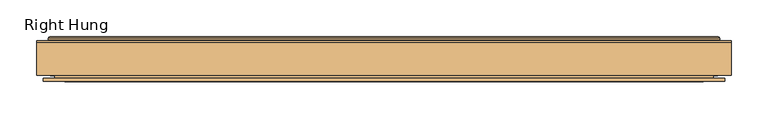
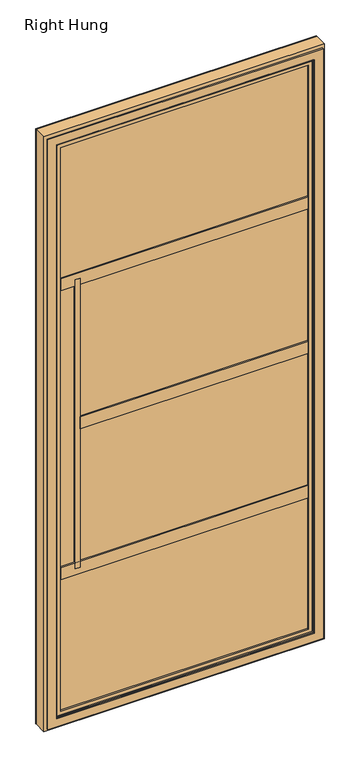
"""IFC4 building model written with IfcOpenShell, lengths in millimetres: door geometry, SMARTS_HeritageDoor 3Rail : Right Hung."""

from ifc_helpers import new_model, si_unit, frame, origin, place, context, project, spatial, polyline, ellipse_curve, outline, extrude, source, transform, mapped, element, save
from ifc_brep_helpers import plane_surface, cylinder_surface, revolved_surface, advanced_brep


def right_hung_7c5ced86(model_context):
    return source(origin(), model_context, "Body", "SolidModel", [
        extrude(outline(polyline([(-425.6945959, -66.0), (-425.6945959, -62.0), (425.6945959, -62.0), (425.6945959, -66.0), (-425.6945959, -66.0)])), frame((0.0, 0.0, 853.5), z_axis=(0.0, 0.0, 1.0), x_axis=(1.0, 0.0, 0.0)), (0.0, 0.0, 1.0), 2013.0),
        extrude(outline(polyline([(-425.6945959, -46.0), (-425.6945959, -42.0), (425.6945959, -42.0), (425.6945959, -46.0), (-425.6945959, -46.0)])), frame((0.0, 0.0, 853.5), z_axis=(0.0, 0.0, 1.0), x_axis=(1.0, 0.0, 0.0)), (0.0, 0.0, 1.0), 2013.0),
        extrude(outline(polyline([(2866.5, 425.6945959), (2866.5, -425.6945959), (853.5, -425.6945959), (853.5, 425.6945959), (2866.5, 425.6945959)]), holes=[polyline([(2856.5, -415.6945959), (2856.5, 415.6945959), (863.5, 415.6945959), (863.5, -415.6945959), (2856.5, -415.6945959)])]), frame((0.0, -62.0, 0.0), z_axis=(0.0, 1.0, 0.0), x_axis=(0.0, 0.0, 1.0)), (0.0, 0.0, 1.0), 16.0),
        extrude(outline(polyline([(-363.9565704, -38.3), (-363.9565704, -27.0), (-348.9565704, -27.0), (-348.9565704, -38.3), (-363.9565704, -38.3)])), frame((0.0, 0.0, 1350.0), z_axis=(0.0, 0.0, 1.0), x_axis=(1.0, 0.0, 0.0)), (0.0, 0.0, 1.0), 1020.0),
        extrude(outline(polyline([(-429.1945959, -27.0), (-363.9565704, -27.0), (-363.9565704, -57.9), (-429.1945959, -57.9), (-429.1945959, -27.0)])), frame((0.0, 0.0, 1350.0), z_axis=(0.0, 0.0, 1.0), x_axis=(1.0, 0.0, 0.0)), (0.0, 0.0, 1.0), 1020.0),
        extrude(outline(polyline([(-348.9565704, -69.6), (-348.9565704, -73.8), (-365.6565704, -73.8), (-365.6565704, -67.9), (-429.3945959, -67.9), (-429.3945959, -57.9), (-363.9565704, -57.9), (-363.9565704, -69.6), (-348.9565704, -69.6)])), frame((0.0, 0.0, 1350.0), z_axis=(0.0, 0.0, 1.0), x_axis=(1.0, 0.0, 0.0)), (0.0, 0.0, 1.0), 1020.0),
        extrude(outline(polyline([(2870.0052956, 429.1998915), (2870.0052956, -429.1998915), (849.9947044, -429.1998915), (849.9947044, 429.1998915), (2870.0052956, 429.1998915)]), holes=[polyline([(2855.0, -414.1945959), (2855.0, 414.1945959), (865.0, 414.1945959), (865.0, -414.1945959), (2855.0, -414.1945959)])]), frame((0.0, -39.3, 0.0), z_axis=(0.0, 1.0, 0.0), x_axis=(0.0, 0.0, 1.0)), (0.0, 0.0, 1.0), 11.3),
        extrude(outline(polyline([(2885.6451958, -444.8397917), (834.3548042, -444.8397917), (834.3548042, 444.8397917), (2885.6451958, 444.8397917), (2885.6451958, -444.8397917)]), holes=[polyline([(850.0, -429.1945959), (2870.0, -429.1945959), (2870.0, 429.1945959), (850.0, 429.1945959), (850.0, -429.1945959)])]), frame((0.0, -69.6, 0.0), z_axis=(0.0, 1.0, 0.0), x_axis=(0.0, 0.0, 1.0)), (0.0, 0.0, 1.0), 41.6),
        advanced_brep(
        [(-414.1945959, -74.8, 2855.0), (-414.1945959, -74.8, 865.0), (-414.1945959, -69.6, 865.0), (-414.1945959, -69.6, 2855.0), (414.1945959, -74.8, 865.0), (414.1945959, -69.6, 865.0), (414.1945959, -74.8, 2855.0), (414.1945959, -69.6, 2855.0), (-460.3945959, -76.0, 2901.2), (-460.3945959, -76.0, 818.8), (-460.3945959, -80.0, 818.8), (-460.3945959, -80.0, 2901.2), (460.3945959, -76.0, 818.8), (460.3945959, -80.0, 818.8), (460.3945959, -76.0, 2901.2), (460.3945959, -80.0, 2901.2), (-445.3413616, -76.0, 2886.1467657), (-445.3413616, -76.0, 833.8532343), (445.3413616, -76.0, 833.8532343), (445.3413616, -76.0, 2886.1467657), (-431.3945959, -80.0, 847.8), (-431.3945959, -80.0, 2872.2), (431.3945959, -80.0, 2872.2), (431.3945959, -80.0, 847.8), (-445.3413616, -69.6, 2886.1467657), (-445.3413616, -69.6, 833.8532343), (445.3413616, -69.6, 833.8532343), (445.3413616, -69.6, 2886.1467657), (-429.3945959, -78.0, 2870.2), (-429.3945959, -78.0, 849.8), (-429.3945959, -76.8, 849.8), (-429.3945959, -76.8, 2870.2), (-427.3945959, -74.8, 851.8), (-427.3945959, -74.8, 2868.2), (429.3945959, -78.0, 849.8), (429.3945959, -76.8, 849.8), (427.3945959, -74.8, 851.8), (429.3945959, -78.0, 2870.2), (429.3945959, -76.8, 2870.2), (427.3945959, -74.8, 2868.2)],
        [
            (0, 1),
            (1, 2),
            (2, 3),
            (3, 0),
            (1, 4),
            (4, 5),
            (5, 2),
            (4, 6),
            (6, 7),
            (7, 5),
            (6, 0),
            (3, 7),
            (8, 9),
            (9, 10),
            (10, 11),
            (11, 8),
            (9, 12),
            (12, 13),
            (13, 10),
            (12, 14),
            (14, 15),
            (15, 13),
            (8, 14),
            (16, 17),
            (17, 18),
            (18, 19),
            (19, 16),
            (11, 15),
            (20, 21),
            (21, 22),
            (22, 23),
            (23, 20),
            (24, 25),
            (25, 17),
            (16, 24),
            (25, 26),
            (26, 18),
            (26, 27),
            (27, 19),
            (24, 27),
            (28, 29),
            (29, 30),
            (30, 31),
            (31, 28),
            (30, 32, ellipse_curve(frame((-427.3945959, -76.8, 851.8), z_axis=(0.7071067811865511, 0.0, -0.7071067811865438), x_axis=(-0.7071067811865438, 0.0, -0.7071067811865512)), 2.8284271, 2.0)),
            (32, 33),
            (33, 31, ellipse_curve(frame((-427.3945959, -76.8, 2868.2), z_axis=(0.7071067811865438, 0.0, 0.7071067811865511), x_axis=(0.707106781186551, 0.0, -0.7071067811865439)), 2.8284271, 2.0)),
            (29, 34),
            (34, 35),
            (35, 30),
            (35, 36, ellipse_curve(frame((427.3945959, -76.8, 851.8), z_axis=(0.7071067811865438, 0.0, 0.7071067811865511), x_axis=(0.7071067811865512, 0.0, -0.7071067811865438)), 2.8284271, 2.0)),
            (36, 32),
            (34, 37),
            (37, 38),
            (38, 35),
            (38, 39, ellipse_curve(frame((427.3945959, -76.8, 2868.2), z_axis=(-0.7071067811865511, 0.0, 0.7071067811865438), x_axis=(0.7071067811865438, 0.0, 0.7071067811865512)), 2.8284271, 2.0)),
            (39, 36),
            (39, 33),
            (37, 28),
            (31, 38),
            (20, 29, ellipse_curve(frame((-431.3945959, -78.0, 847.8), z_axis=(-0.7071067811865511, 0.0, 0.7071067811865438), x_axis=(0.7071067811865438, 0.0, 0.7071067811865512)), 2.8284271, 2.0)),
            (28, 21, ellipse_curve(frame((-431.3945959, -78.0, 2872.2), z_axis=(-0.7071067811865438, 0.0, -0.7071067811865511), x_axis=(-0.707106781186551, 0.0, 0.7071067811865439)), 2.8284271, 2.0)),
            (23, 34, ellipse_curve(frame((431.3945959, -78.0, 847.8), z_axis=(-0.7071067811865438, 0.0, -0.7071067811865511), x_axis=(-0.7071067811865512, 0.0, 0.7071067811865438)), 2.8284271, 2.0)),
            (22, 37, ellipse_curve(frame((431.3945959, -78.0, 2872.2), z_axis=(0.7071067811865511, 0.0, -0.7071067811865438), x_axis=(-0.7071067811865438, 0.0, -0.7071067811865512)), 2.8284271, 2.0)),
        ],
        [
            plane_surface(frame((-414.1945959, -69.6, 2855.0), z_axis=(1.0, 0.0, 0.0), x_axis=(0.0, 0.0, -1.0))),
            plane_surface(frame((-414.1945959, -69.6, 865.0), z_axis=(0.0, 0.0, 1.0), x_axis=(1.0, 0.0, 0.0))),
            plane_surface(frame((414.1945959, -69.6, 865.0), z_axis=(-1.0, 0.0, 0.0), x_axis=(0.0, 0.0, 1.0))),
            plane_surface(frame((414.1945959, -69.6, 2855.0), z_axis=(0.0, 0.0, -1.0), x_axis=(-1.0, 0.0, 0.0))),
            plane_surface(frame((-460.3945959, -80.0, 2901.2), z_axis=(-1.0, 0.0, 0.0), x_axis=(0.0, 0.0, -1.0))),
            plane_surface(frame((-460.3945959, -80.0, 818.8), z_axis=(0.0, 0.0, -1.0), x_axis=(1.0, 0.0, 0.0))),
            plane_surface(frame((460.3945959, -80.0, 818.8), z_axis=(1.0, 0.0, 0.0), x_axis=(0.0, 0.0, 1.0))),
            plane_surface(frame((460.3945959, -76.0, 2901.2), z_axis=(0.0, 1.0, 0.0), x_axis=(-1.0, 0.0, 0.0))),
            plane_surface(frame((460.3945959, -80.0, 2901.2), z_axis=(0.0, 0.0, 1.0), x_axis=(-1.0, 0.0, 0.0))),
            plane_surface(frame((431.3945959, -80.0, 2872.2), z_axis=(0.0, -1.0, 0.0), x_axis=(-1.0, 0.0, 0.0))),
            plane_surface(frame((-445.3413616, -76.0, 2886.1467657), z_axis=(-1.0, 0.0, 0.0), x_axis=(0.0, 0.0, -1.0))),
            plane_surface(frame((-445.3413616, -76.0, 833.8532343), z_axis=(0.0, 0.0, -1.0), x_axis=(1.0, 0.0, 0.0))),
            plane_surface(frame((445.3413616, -76.0, 833.8532343), z_axis=(1.0, 0.0, 0.0), x_axis=(0.0, 0.0, 1.0))),
            plane_surface(frame((445.3413616, -69.6, 2886.1467657), z_axis=(0.0, 1.0, 0.0), x_axis=(-1.0, 0.0, 0.0))),
            plane_surface(frame((445.3413616, -76.0, 2886.1467657), z_axis=(0.0, 0.0, 1.0), x_axis=(-1.0, 0.0, 0.0))),
            plane_surface(frame((-429.3945959, -76.8, 2870.2), z_axis=(1.0, 0.0, 0.0), x_axis=(0.0, 0.0, -1.0))),
            revolved_surface(polyline([(-429.3945959, -76.8, 849.8), (-429.3945959, -76.8, 2870.2)]), (-427.3945959, -76.8, 2880.0), (0.0, 0.0, -1.0)),
            plane_surface(frame((-429.3945959, -76.8, 849.8), z_axis=(0.0, 0.0, 1.0), x_axis=(1.0, 0.0, 0.0))),
            revolved_surface(polyline([(429.39459589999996, -76.8, 849.8), (-429.3945959, -76.8, 849.8)]), (-439.1945959, -76.8, 851.8), (1.0, 0.0, 0.0)),
            plane_surface(frame((429.3945959, -76.8, 849.8), z_axis=(-1.0, 0.0, 0.0), x_axis=(0.0, 0.0, 1.0))),
            revolved_surface(polyline([(429.3945959, -76.8, 2870.2), (429.3945959, -76.8, 849.8)]), (427.3945959, -76.8, 840.0), (0.0, 0.0, 1.0)),
            plane_surface(frame((414.1945959, -74.8, 2855.0), z_axis=(0.0, -1.0, 0.0), x_axis=(-1.0, 0.0, 0.0))),
            plane_surface(frame((429.3945959, -76.8, 2870.2), z_axis=(0.0, 0.0, -1.0), x_axis=(-1.0, 0.0, 0.0))),
            revolved_surface(polyline([(-429.39459589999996, -76.8, 2870.2), (429.3945959, -76.8, 2870.2)]), (439.1945959, -76.8, 2868.2), (-1.0, 0.0, 0.0)),
            cylinder_surface(frame((-431.3945959, -78.0, 2880.0), z_axis=(0.0, 0.0, 1.0), x_axis=(-1.0, 0.0, 0.0)), 2.0),
            cylinder_surface(frame((-439.1945959, -78.0, 847.8), z_axis=(-1.0, 0.0, 0.0), x_axis=(0.0, 0.0, -1.0)), 2.0),
            cylinder_surface(frame((431.3945959, -78.0, 840.0), z_axis=(0.0, 0.0, -1.0), x_axis=(1.0, 0.0, 0.0)), 2.0),
            cylinder_surface(frame((439.1945959, -78.0, 2872.2), z_axis=(1.0, 0.0, 0.0), x_axis=(0.0, 0.0, 1.0)), 2.0),
        ],
        [
            (0, [[1, 2, 3, 4]]),
            (1, [[5, 6, 7, -2]]),
            (2, [[8, 9, 10, -6]]),
            (3, [[11, -4, 12, -9]]),
            (4, [[13, 14, 15, 16]]),
            (5, [[17, 18, 19, -14]]),
            (6, [[20, 21, 22, -18]]),
            (7, [[-13, 23, -20, -17], [24, 25, 26, 27]]),
            (8, [[-23, -16, 28, -21]]),
            (9, [[-15, -19, -22, -28], [29, 30, 31, 32]]),
            (10, [[33, 34, -24, 35]]),
            (11, [[36, 37, -25, -34]]),
            (12, [[38, 39, -26, -37]]),
            (13, [[-33, 40, -38, -36], [-3, -7, -10, -12]]),
            (14, [[-40, -35, -27, -39]]),
            (15, [[41, 42, 43, 44]]),
            (16, [[-43, 45, 46, 47]]),
            (17, [[48, 49, 50, -42]]),
            (18, [[-50, 51, 52, -45]]),
            (19, [[53, 54, 55, -49]]),
            (20, [[-55, 56, 57, -51]]),
            (21, [[-46, -52, -57, 58], [-1, -11, -8, -5]]),
            (22, [[59, -44, 60, -54]]),
            (23, [[-60, -47, -58, -56]]),
            (24, [[-29, 61, -41, 62]]),
            (25, [[-32, 63, -48, -61]]),
            (26, [[-31, 64, -53, -63]]),
            (27, [[-30, -62, -59, -64]]),
        ],
    ),
        extrude(outline(polyline([(414.1945959, -38.4690746), (-348.9565704, -38.4690746), (-348.9565704, -27.1690746), (414.1945959, -27.1690746), (414.1945959, -38.4690746)])), frame((0.0, 0.0, 1838.75), z_axis=(0.0, 0.0, 1.0), x_axis=(1.0, 0.0, 0.0)), (0.0, 0.0, 1.0), 16.15),
        extrude(outline(polyline([(414.1945959, -38.4690746), (-348.9565704, -38.4690746), (-348.9565704, -27.1690746), (414.1945959, -27.1690746), (414.1945959, -38.4690746)])), frame((0.0, 0.0, 1866.25), z_axis=(0.0, 0.0, 1.0), x_axis=(1.0, 0.0, 0.0)), (0.0, 0.0, 1.0), 15.0052956),
        extrude(outline(polyline([(414.1945959, -53.5843537), (-348.9565704, -53.5843537), (-348.9565704, -27.1690746), (414.1945959, -27.1690746), (414.1945959, -53.5843537)])), frame((0.0, 0.0, 1853.75), z_axis=(0.0, 0.0, 1.0), x_axis=(1.0, 0.0, 0.0)), (0.0, 0.0, 1.0), 12.5),
        extrude(outline(polyline([(-69.9690746, 1881.2552956), (-69.9690746, 1866.25), (-53.5843537, 1866.25), (-53.5843537, 1853.75), (-69.9690746, 1853.75), (-69.9690746, 1838.75), (-73.9687074, 1838.75), (-73.9687074, 1881.2552956), (-69.9690746, 1881.2552956)])), frame((-349.1945959, 0.0, 0.0), z_axis=(1.0, 0.0, 0.0), x_axis=(0.0, 1.0, 0.0)), (0.0, 0.0, 1.0), 763.3891918),
        extrude(outline(polyline([(414.1945959, -38.4690746), (-414.1945959, -38.4690746), (-414.1945959, -27.1690746), (414.1945959, -27.1690746), (414.1945959, -38.4690746)])), frame((0.0, 0.0, 2348.75), z_axis=(0.0, 0.0, 1.0), x_axis=(1.0, 0.0, 0.0)), (0.0, 0.0, 1.0), 16.15),
        extrude(outline(polyline([(414.1945959, -38.4690746), (-414.1945959, -38.4690746), (-414.1945959, -27.1690746), (414.1945959, -27.1690746), (414.1945959, -38.4690746)])), frame((0.0, 0.0, 2376.25), z_axis=(0.0, 0.0, 1.0), x_axis=(1.0, 0.0, 0.0)), (0.0, 0.0, 1.0), 15.0052956),
        extrude(outline(polyline([(414.1945959, -53.5843537), (-414.1945959, -53.5843537), (-414.1945959, -27.1690746), (414.1945959, -27.1690746), (414.1945959, -53.5843537)])), frame((0.0, 0.0, 2363.75), z_axis=(0.0, 0.0, 1.0), x_axis=(1.0, 0.0, 0.0)), (0.0, 0.0, 1.0), 12.5),
        extrude(outline(polyline([(-69.9690746, 2391.2552956), (-69.9690746, 2376.25), (-53.5843537, 2376.25), (-53.5843537, 2363.75), (-69.9690746, 2363.75), (-69.9690746, 2348.75), (-73.9687074, 2348.75), (-73.9687074, 2391.2552956), (-69.9690746, 2391.2552956)])), frame((-414.1945959, 0.0, 0.0), z_axis=(1.0, 0.0, 0.0), x_axis=(0.0, 1.0, 0.0)), (0.0, 0.0, 1.0), 828.3891918),
        extrude(outline(polyline([(414.1945959, -38.4690746), (-414.1945959, -38.4690746), (-414.1945959, -27.1690746), (414.1945959, -27.1690746), (414.1945959, -38.4690746)])), frame((0.0, 0.0, 1328.75), z_axis=(0.0, 0.0, 1.0), x_axis=(1.0, 0.0, 0.0)), (0.0, 0.0, 1.0), 16.15),
        extrude(outline(polyline([(414.1945959, -38.4690746), (-414.1945959, -38.4690746), (-414.1945959, -27.1690746), (414.1945959, -27.1690746), (414.1945959, -38.4690746)])), frame((0.0, 0.0, 1356.25), z_axis=(0.0, 0.0, 1.0), x_axis=(1.0, 0.0, 0.0)), (0.0, 0.0, 1.0), 15.0052956),
        extrude(outline(polyline([(414.1945959, -53.5843537), (-414.1945959, -53.5843537), (-414.1945959, -27.1690746), (414.1945959, -27.1690746), (414.1945959, -53.5843537)])), frame((0.0, 0.0, 1343.75), z_axis=(0.0, 0.0, 1.0), x_axis=(1.0, 0.0, 0.0)), (0.0, 0.0, 1.0), 12.5),
        extrude(outline(polyline([(-69.9690746, 1371.2552956), (-69.9690746, 1356.25), (-53.5843537, 1356.25), (-53.5843537, 1343.75), (-69.9690746, 1343.75), (-69.9690746, 1328.75), (-73.9687074, 1328.75), (-73.9687074, 1371.2552956), (-69.9690746, 1371.2552956)])), frame((-414.1945959, 0.0, 0.0), z_axis=(1.0, 0.0, 0.0), x_axis=(0.0, 1.0, 0.0)), (0.0, 0.0, 1.0), 828.3891918),
        advanced_brep(
        [(436.1945959, -20.0, 2877.0), (436.1945959, -20.0, 843.0), (436.1945959, -24.0, 843.0), (436.1945959, -24.0, 2877.0), (451.4945777, -24.0, 2892.2999818), (451.4945777, -24.0, 827.7000182), (451.4945777, -27.0000138, 827.7000182), (451.4945777, -27.0000138, 2892.2999818), (453.6945777, -23.5000138, 2894.4999818), (453.6945777, -23.5000138, 825.5000182), (453.6945777, -22.0, 825.5000182), (453.6945777, -22.0, 2894.4999818), (-436.1945959, -20.0, 843.0), (-436.1945959, -24.0, 843.0), (-451.4945777, -24.0, 827.7000182), (-451.4945777, -27.0000138, 827.7000182), (-453.6945777, -23.5000138, 825.5000182), (-453.6945777, -22.0, 825.5000182), (-436.1945959, -20.0, 2877.0), (-436.1945959, -24.0, 2877.0), (-451.4945777, -24.0, 2892.2999818), (-451.4945777, -27.0000138, 2892.2999818), (-453.6945777, -23.5000138, 2894.4999818), (-453.6945777, -22.0, 2894.4999818), (455.1945777, -25.0000138, 2895.9999818), (455.1945777, -25.0000138, 824.0000182), (469.1945959, -27.0000138, 2910.0), (469.1945959, -27.0000138, 810.0), (469.1945959, -25.0000138, 810.0), (469.1945959, -25.0000138, 2910.0), (-455.1945777, -25.0000138, 824.0000182), (-469.1945959, -27.0000138, 810.0), (-469.1945959, -25.0000138, 810.0), (-455.1945777, -25.0000138, 2895.9999818), (-469.1945959, -27.0000138, 2910.0), (-469.1945959, -25.0000138, 2910.0), (451.6945777, -20.0, 2892.4999818), (451.6945777, -20.0, 827.5000182), (-451.6945777, -20.0, 827.5000182), (-451.6945777, -20.0, 2892.4999818)],
        [
            (0, 1),
            (1, 2),
            (2, 3),
            (3, 0),
            (4, 5),
            (5, 6),
            (6, 7),
            (7, 4),
            (8, 9),
            (9, 10),
            (10, 11),
            (11, 8),
            (1, 12),
            (12, 13),
            (13, 2),
            (5, 14),
            (14, 15),
            (15, 6),
            (9, 16),
            (16, 17),
            (17, 10),
            (12, 18),
            (18, 19),
            (19, 13),
            (14, 20),
            (20, 21),
            (21, 15),
            (16, 22),
            (22, 23),
            (23, 17),
            (18, 0),
            (3, 19),
            (4, 20),
            (7, 21),
            (22, 8),
            (11, 23),
            (24, 25),
            (25, 9, ellipse_curve(frame((455.1945777, -23.5000138, 824.0000182), z_axis=(-0.7071067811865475, 0.0, -0.7071067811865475), x_axis=(0.7071067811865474, 0.0, -0.7071067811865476)), 2.1213203, 1.5)),
            (8, 24, ellipse_curve(frame((455.1945777, -23.5000138, 2895.9999818), z_axis=(-0.7071067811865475, 0.0, 0.7071067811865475), x_axis=(-0.7071067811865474, 0.0, -0.7071067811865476)), 2.1213203, 1.5)),
            (26, 27),
            (27, 28),
            (28, 29),
            (29, 26),
            (25, 30),
            (30, 16, ellipse_curve(frame((-455.1945777, -23.5000138, 824.0000182), z_axis=(-0.7071067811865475, 0.0, 0.7071067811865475), x_axis=(-0.7071067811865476, 0.0, -0.7071067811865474)), 2.1213203, 1.5)),
            (27, 31),
            (31, 32),
            (32, 28),
            (30, 33),
            (33, 22, ellipse_curve(frame((-455.1945777, -23.5000138, 2895.9999818), z_axis=(0.7071067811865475, 0.0, 0.7071067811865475), x_axis=(-0.7071067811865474, 0.0, 0.7071067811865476)), 2.1213203, 1.5)),
            (31, 34),
            (34, 35),
            (35, 32),
            (33, 24),
            (35, 29),
            (36, 37),
            (37, 38),
            (38, 39),
            (39, 36),
            (34, 26),
            (10, 37, ellipse_curve(frame((451.6945777, -22.0, 827.5000182), z_axis=(0.7071067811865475, 0.0, 0.7071067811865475), x_axis=(-0.7071067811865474, 0.0, 0.7071067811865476)), 2.8284271, 2.0)),
            (36, 11, ellipse_curve(frame((451.6945777, -22.0, 2892.4999818), z_axis=(0.7071067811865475, 0.0, -0.7071067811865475), x_axis=(0.7071067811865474, 0.0, 0.7071067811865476)), 2.8284271, 2.0)),
            (17, 38, ellipse_curve(frame((-451.6945777, -22.0, 827.5000182), z_axis=(0.7071067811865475, 0.0, -0.7071067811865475), x_axis=(0.7071067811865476, 0.0, 0.7071067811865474)), 2.8284271, 2.0)),
            (23, 39, ellipse_curve(frame((-451.6945777, -22.0, 2892.4999818), z_axis=(-0.7071067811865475, 0.0, -0.7071067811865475), x_axis=(0.7071067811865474, 0.0, -0.7071067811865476)), 2.8284271, 2.0)),
        ],
        [
            plane_surface(frame((436.1945959, -24.0, 2877.0), z_axis=(-1.0, 0.0, 0.0), x_axis=(0.0, 0.0, -1.0))),
            plane_surface(frame((451.4945777, -27.0000138, 2892.2999818), z_axis=(-1.0, 0.0, 0.0), x_axis=(0.0, 0.0, -1.0))),
            plane_surface(frame((453.6945777, -22.0, 2894.4999818), z_axis=(1.0, 0.0, 0.0), x_axis=(0.0, 0.0, -1.0))),
            plane_surface(frame((436.1945959, -24.0, 843.0), z_axis=(0.0, 0.0, 1.0), x_axis=(-1.0, 0.0, 0.0))),
            plane_surface(frame((451.4945777, -27.0000138, 827.7000182), z_axis=(0.0, 0.0, 1.0), x_axis=(-1.0, 0.0, 0.0))),
            plane_surface(frame((453.6945777, -22.0, 825.5000182), z_axis=(0.0, 0.0, -1.0), x_axis=(-1.0, 0.0, 0.0))),
            plane_surface(frame((-436.1945959, -24.0, 843.0), z_axis=(1.0, 0.0, 0.0), x_axis=(0.0, 0.0, 1.0))),
            plane_surface(frame((-451.4945777, -27.0000138, 827.7000182), z_axis=(1.0, 0.0, 0.0), x_axis=(0.0, 0.0, 1.0))),
            plane_surface(frame((-453.6945777, -22.0, 825.5000182), z_axis=(-1.0, 0.0, 0.0), x_axis=(0.0, 0.0, 1.0))),
            plane_surface(frame((-436.1945959, -24.0, 2877.0), z_axis=(0.0, 0.0, -1.0), x_axis=(1.0, 0.0, 0.0))),
            plane_surface(frame((-451.4945777, -24.0, 2892.2999818), z_axis=(0.0, -1.0, 0.0), x_axis=(1.0, 0.0, 0.0))),
            plane_surface(frame((-451.4945777, -27.0000138, 2892.2999818), z_axis=(0.0, 0.0, -1.0), x_axis=(1.0, 0.0, 0.0))),
            plane_surface(frame((-453.6945777, -22.0, 2894.4999818), z_axis=(0.0, 0.0, 1.0), x_axis=(1.0, 0.0, 0.0))),
            revolved_surface(polyline([(453.6945777, -23.5000138, 822.5000182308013), (453.6945777, -23.5000138, 2897.4999817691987)]), (455.1945777, -23.5000138, 2910.0), (0.0, 0.0, -1.0)),
            plane_surface(frame((469.1945959, -25.0000138, 2910.0), z_axis=(1.0, 0.0, 0.0), x_axis=(0.0, 0.0, -1.0))),
            revolved_surface(polyline([(-456.69457766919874, -23.5000138, 825.5000182), (456.6945776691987, -23.5000138, 825.5000182)]), (469.1945959, -23.5000138, 824.0000182), (-1.0, 0.0, 0.0)),
            plane_surface(frame((469.1945959, -25.0000138, 810.0), z_axis=(0.0, 0.0, -1.0), x_axis=(-1.0, 0.0, 0.0))),
            revolved_surface(polyline([(-453.6945777, -23.5000138, 2897.4999817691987), (-453.6945777, -23.5000138, 822.5000182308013)]), (-455.1945777, -23.5000138, 810.0), (0.0, 0.0, 1.0)),
            plane_surface(frame((-469.1945959, -25.0000138, 810.0), z_axis=(-1.0, 0.0, 0.0), x_axis=(0.0, 0.0, 1.0))),
            revolved_surface(polyline([(456.69457766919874, -23.5000138, 2894.4999818), (-456.6945776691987, -23.5000138, 2894.4999818)]), (-469.1945959, -23.5000138, 2895.9999818), (1.0, 0.0, 0.0)),
            plane_surface(frame((-455.1945777, -25.0000138, 2895.9999818), z_axis=(0.0, 1.0, 0.0), x_axis=(1.0, 0.0, 0.0))),
            plane_surface(frame((-436.1945959, -20.0, 2877.0), z_axis=(0.0, 1.0, 0.0), x_axis=(1.0, 0.0, 0.0))),
            plane_surface(frame((-469.1945959, -25.0000138, 2910.0), z_axis=(0.0, 0.0, 1.0), x_axis=(1.0, 0.0, 0.0))),
            plane_surface(frame((-469.1945959, -27.0000138, 2910.0), z_axis=(0.0, -1.0, 0.0), x_axis=(1.0, 0.0, 0.0))),
            cylinder_surface(frame((451.6945777, -22.0, 2910.0), z_axis=(0.0, 0.0, 1.0), x_axis=(-1.0, 0.0, 0.0)), 2.0),
            cylinder_surface(frame((469.1945959, -22.0, 827.5000182), z_axis=(1.0, 0.0, 0.0), x_axis=(0.0, 0.0, 1.0)), 2.0),
            cylinder_surface(frame((-451.6945777, -22.0, 810.0), z_axis=(0.0, 0.0, -1.0), x_axis=(1.0, 0.0, 0.0)), 2.0),
            cylinder_surface(frame((-469.1945959, -22.0, 2892.4999818), z_axis=(-1.0, 0.0, 0.0), x_axis=(0.0, 0.0, -1.0)), 2.0),
        ],
        [
            (0, [[1, 2, 3, 4]]),
            (1, [[5, 6, 7, 8]]),
            (2, [[9, 10, 11, 12]]),
            (3, [[13, 14, 15, -2]]),
            (4, [[16, 17, 18, -6]]),
            (5, [[19, 20, 21, -10]]),
            (6, [[22, 23, 24, -14]]),
            (7, [[25, 26, 27, -17]]),
            (8, [[28, 29, 30, -20]]),
            (9, [[31, -4, 32, -23]]),
            (10, [[-5, 33, -25, -16], [-3, -15, -24, -32]]),
            (11, [[-33, -8, 34, -26]]),
            (12, [[35, -12, 36, -29]]),
            (13, [[37, 38, -9, 39]]),
            (14, [[40, 41, 42, 43]]),
            (15, [[44, 45, -19, -38]]),
            (16, [[46, 47, 48, -41]]),
            (17, [[49, 50, -28, -45]]),
            (18, [[51, 52, 53, -47]]),
            (19, [[54, -39, -35, -50]]),
            (20, [[-42, -48, -53, 55], [-37, -54, -49, -44]]),
            (21, [[56, 57, 58, 59], [-1, -31, -22, -13]]),
            (22, [[60, -43, -55, -52]]),
            (23, [[-40, -60, -51, -46], [-7, -18, -27, -34]]),
            (24, [[-11, 61, -56, 62]]),
            (25, [[-21, 63, -57, -61]]),
            (26, [[-30, 64, -58, -63]]),
            (27, [[-36, -62, -59, -64]]),
        ],
    ),
        extrude(outline(polyline([(810.0, 469.1945959), (2910.0, 469.1945959), (2910.0, -469.1945959), (810.0, -469.1945959), (810.0, 469.1945959)]), holes=[polyline([(2892.2999818, 451.4945777), (827.7000182, 451.4945777), (827.7000182, -451.4945777), (2892.2999818, -451.4945777), (2892.2999818, 451.4945777)])]), frame((0.0, -72.0000099, 0.0), z_axis=(0.0, 1.0, 0.0), x_axis=(0.0, 0.0, 1.0)), (0.0, 0.0, 1.0), 44.9999962),
    ])


if __name__ == "__main__":
    model = new_model("IFC4")
    model_context = context("Model", 3, world=origin())
    ifc_project = project(units=[si_unit("LENGTHUNIT", "METRE", prefix="MILLI")], contexts=[model_context])
    site = spatial("IfcSite", under=ifc_project)
    building = spatial("IfcBuilding", under=site)
    placement = place(None, origin())
    right_hung_shape = right_hung_7c5ced86(model_context)
    element("IfcDoor", 1, ObjectType="SMARTS_HeritageDoor 3Rail : Right Hung", at=placement, inside=building, context=model_context, shape_type="MappedRepresentation", body=[
        mapped(right_hung_shape, transform((0.0, 0.0, 0.0), x_axis=(1.0, 0.0, 0.0), y_axis=(0.0, 1.0, 0.0), z_axis=(0.0, 0.0, 1.0))),
    ])
    save(model, "model.ifc")
